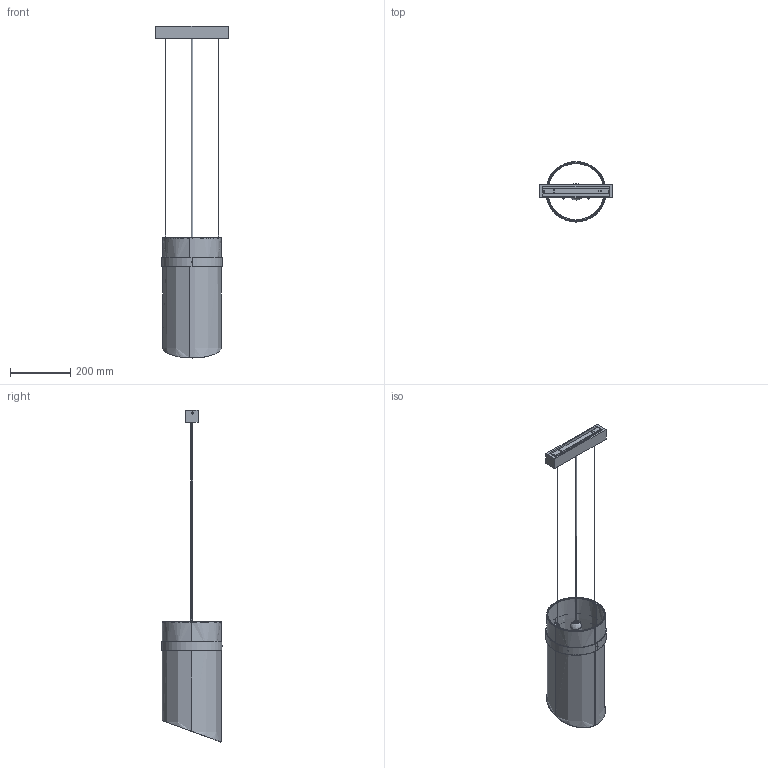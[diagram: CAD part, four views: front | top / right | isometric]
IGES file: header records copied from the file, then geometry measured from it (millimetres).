
Start section: SolidWorks IGES file using analytic representation for surfaces
Global section: file name: E:\_DESIGN\Emy\EMY 200_6914\EMY 200.IGS; native system: SolidWorks 2016; preprocessor: SolidWorks 2016; author: Asia; date: 160707.135517; units: millimetre
Bounding box: 243.6 x 201.78 x 1101.96 mm (x, y, z)
Surface area: 605115.2 mm2 (no closed solid volume)
Topology: 0 solids, 0 shells, 410 faces, 5601 edges, 5596 vertices
Faces by surface type: bspline 207, revolution 203
